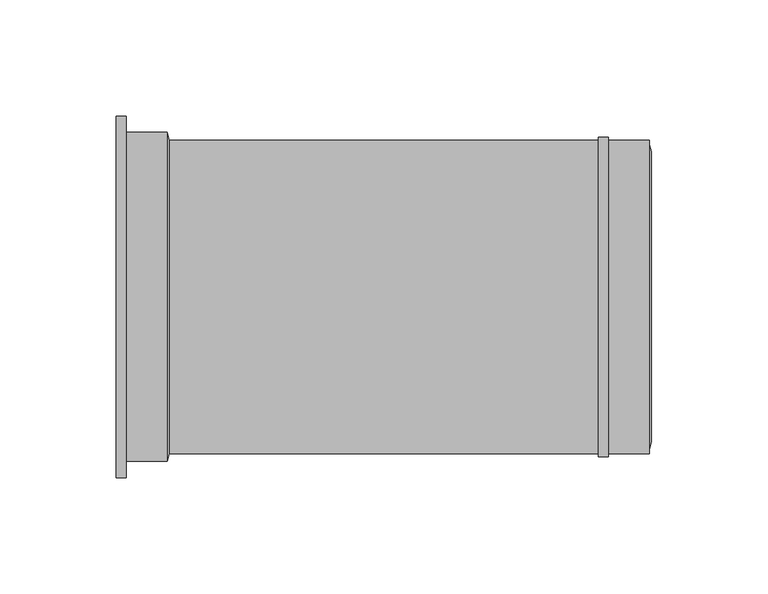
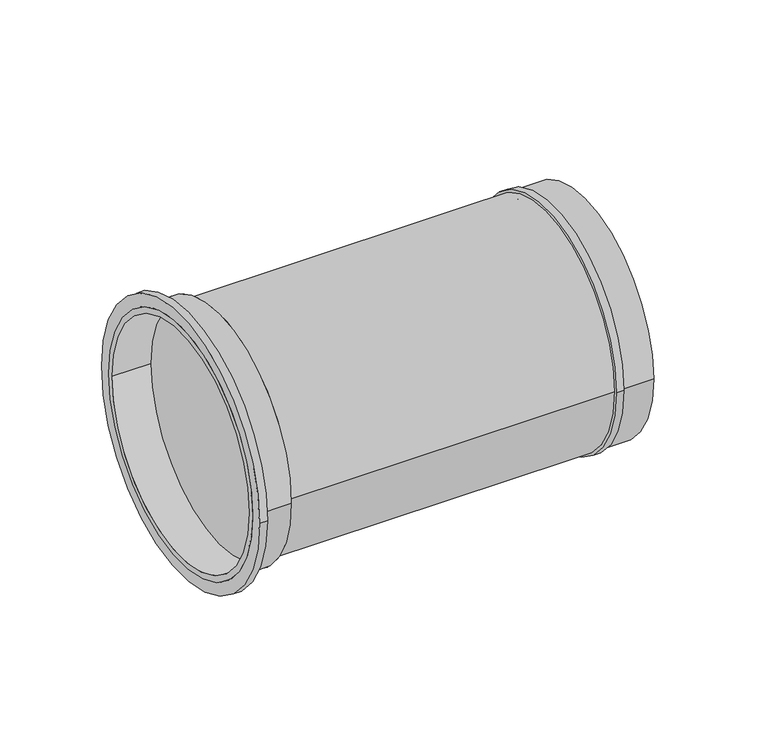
"""IFC4 building model written with IfcOpenShell, lengths in millimetres: pipe fitting geometry, Superdrain SK Connection to HT : Superdrain SK Connection to HT."""

from ifc_helpers import new_model, si_unit, point, frame, origin, origin_2d, place, context, project, spatial, polyline, circle_curve, trimmed, segment, composite_curve, outline, extrude, source, transform, mapped, element, save
from ifc_brep_helpers import plane_surface, revolved_surface, advanced_brep


def pipe_fitting_3edb0472(model_context):
    return source(origin(), model_context, "Body", "SolidModel", [
        extrude(outline(composite_curve([segment(trimmed(circle_curve(origin_2d(), 65.625), [point((-65.625, 0.0))], [point((65.625, 0.0))], False, "CARTESIAN"), True, "CONTINUOUS"), segment(trimmed(circle_curve(origin_2d(), 65.625), [point((65.625, 0.0))], [point((-65.625, 0.0))], False, "CARTESIAN"), True, "CONTINUOUS")], self_intersect=False), holes=[composite_curve([segment(trimmed(circle_curve(origin_2d(), 62.5), [point((-62.5, 0.0))], [point((62.5, 0.0))], True, "CARTESIAN"), True, "CONTINUOUS"), segment(trimmed(circle_curve(origin_2d(), 62.5), [point((62.5, 0.0))], [point((-62.5, 0.0))], True, "CARTESIAN"), True, "CONTINUOUS")], self_intersect=False)]), frame((78.0, 0.0, 0.0), z_axis=(1.0, 0.0, 0.0), x_axis=(0.0, 1.0, 0.0)), (0.0, 0.0, 1.0), 22.0),
        extrude(outline(composite_curve([segment(trimmed(circle_curve(origin_2d(), 68.90625), [point((-68.90625, 0.0))], [point((68.90625, 0.0))], False, "CARTESIAN"), True, "CONTINUOUS"), segment(trimmed(circle_curve(origin_2d(), 68.90625), [point((68.90625, 0.0))], [point((-68.90625, 0.0))], False, "CARTESIAN"), True, "CONTINUOUS")], self_intersect=False), holes=[composite_curve([segment(trimmed(circle_curve(origin_2d(), 62.5), [point((-62.5, 0.0))], [point((62.5, 0.0))], True, "CARTESIAN"), True, "CONTINUOUS"), segment(trimmed(circle_curve(origin_2d(), 62.5), [point((62.5, 0.0))], [point((-62.5, 0.0))], True, "CARTESIAN"), True, "CONTINUOUS")], self_intersect=False)]), frame((78.0, 0.0, 0.0), z_axis=(1.0, 0.0, 0.0), x_axis=(0.0, 1.0, 0.0)), (0.0, 0.0, 1.0), 4.4),
        advanced_brep(
        [(101.0, -62.5, 0.0), (101.0, 62.5, 0.0), (100.0, -65.625, 0.0), (100.0, 65.625, 0.0)],
        [
            (0, 1, circle_curve(frame((101.0, 0.0, 0.0), z_axis=(1.0, 0.0, 0.0), x_axis=(0.0, -1.0, 0.0)), 62.5)),
            (1, 0, circle_curve(frame((101.0, 0.0, 0.0), z_axis=(1.0, 0.0, 0.0), x_axis=(0.0, 1.0, 0.0)), 62.5)),
            (2, 3, circle_curve(frame((100.0, 0.0, 0.0), z_axis=(-1.0, 0.0, 0.0), x_axis=(0.0, 1.0, 0.0)), 65.625)),
            (3, 2, circle_curve(frame((100.0, 0.0, 0.0), z_axis=(-1.0, 0.0, 0.0), x_axis=(0.0, -1.0, 0.0)), 65.625)),
            (3, 1),
            (0, 2),
        ],
        [
            plane_surface(frame((101.0, 0.0, 0.0), z_axis=(1.0, 0.0, 0.0), x_axis=(0.0, 0.0, -1.0))),
            plane_surface(frame((100.0, 0.0, 0.0), z_axis=(-1.0, 0.0, 0.0), x_axis=(0.0, 0.0, -1.0))),
            revolved_surface(polyline([(101.0, -62.5, 0.0), (100.0, -65.625, 0.0)]), (121.0, 0.0, 0.0), (-1.0, 0.0, 0.0)),
            revolved_surface(polyline([(101.0, 62.5, 0.0), (100.0, 65.625, 0.0)]), (121.0, 0.0, 0.0), (-1.0, 0.0, 0.0)),
        ],
        [
            (0, [[1, 2]]),
            (1, [[3, 4]]),
            (2, [[-4, 5, -1, 6]]),
            (3, [[-3, -6, -2, -5]]),
        ],
    ),
        extrude(outline(composite_curve([segment(trimmed(circle_curve(origin_2d(), 70.875), [point((-70.875, 0.0))], [point((70.875, 0.0))], False, "CARTESIAN"), True, "CONTINUOUS"), segment(trimmed(circle_curve(origin_2d(), 70.875), [point((70.875, 0.0))], [point((-70.875, 0.0))], False, "CARTESIAN"), True, "CONTINUOUS")], self_intersect=False), holes=[composite_curve([segment(trimmed(circle_curve(origin_2d(), 67.5), [point((-67.5, 0.0))], [point((67.5, 0.0))], True, "CARTESIAN"), True, "CONTINUOUS"), segment(trimmed(circle_curve(origin_2d(), 67.5), [point((67.5, 0.0))], [point((-67.5, 0.0))], True, "CARTESIAN"), True, "CONTINUOUS")], self_intersect=False)]), frame((-130.0, 0.0, 0.0), z_axis=(1.0, 0.0, 0.0), x_axis=(0.0, 1.0, 0.0)), (0.0, 0.0, 1.0), 22.0),
        extrude(outline(composite_curve([segment(trimmed(circle_curve(origin_2d(), 77.9625), [point((-77.9625, 0.0))], [point((77.9625, 0.0))], False, "CARTESIAN"), True, "CONTINUOUS"), segment(trimmed(circle_curve(origin_2d(), 77.9625), [point((77.9625, 0.0))], [point((-77.9625, 0.0))], False, "CARTESIAN"), True, "CONTINUOUS")], self_intersect=False), holes=[composite_curve([segment(trimmed(circle_curve(origin_2d(), 67.5), [point((-67.5, 0.0))], [point((67.5, 0.0))], True, "CARTESIAN"), True, "CONTINUOUS"), segment(trimmed(circle_curve(origin_2d(), 67.5), [point((67.5, 0.0))], [point((-67.5, 0.0))], True, "CARTESIAN"), True, "CONTINUOUS")], self_intersect=False)]), frame((-130.0, 0.0, 0.0), z_axis=(1.0, 0.0, 0.0), x_axis=(0.0, 1.0, 0.0)), (0.0, 0.0, 1.0), 4.4),
        advanced_brep(
        [(-107.0, -67.5, 0.0), (-107.0, 67.5, 0.0), (-108.0, -70.875, 0.0), (-108.0, 70.875, 0.0)],
        [
            (0, 1, circle_curve(frame((-107.0, 0.0, 0.0), z_axis=(1.0, 0.0, 0.0), x_axis=(0.0, -1.0, 0.0)), 67.5)),
            (1, 0, circle_curve(frame((-107.0, 0.0, 0.0), z_axis=(1.0, 0.0, 0.0), x_axis=(0.0, 1.0, 0.0)), 67.5)),
            (2, 3, circle_curve(frame((-108.0, 0.0, 0.0), z_axis=(-1.0, 0.0, 0.0), x_axis=(0.0, 1.0, 0.0)), 70.875)),
            (3, 2, circle_curve(frame((-108.0, 0.0, 0.0), z_axis=(-1.0, 0.0, 0.0), x_axis=(0.0, -1.0, 0.0)), 70.875)),
            (3, 1),
            (0, 2),
        ],
        [
            plane_surface(frame((-107.0, 0.0, 0.0), z_axis=(1.0, 0.0, 0.0), x_axis=(0.0, 0.0, -1.0))),
            plane_surface(frame((-108.0, 0.0, 0.0), z_axis=(-1.0, 0.0, 0.0), x_axis=(0.0, 0.0, -1.0))),
            revolved_surface(polyline([(-107.0, -67.5, 0.0), (-108.0, -70.875, 0.0)]), (-87.0, 0.0, 0.0), (-1.0, 0.0, 0.0)),
            revolved_surface(polyline([(-107.0, 67.5, 0.0), (-108.0, 70.875, 0.0)]), (-87.0, 0.0, 0.0), (-1.0, 0.0, 0.0)),
        ],
        [
            (0, [[1, 2]]),
            (1, [[3, 4]]),
            (2, [[-4, 5, -1, 6]]),
            (3, [[-3, -6, -2, -5]]),
        ],
    ),
        extrude(outline(composite_curve([segment(trimmed(circle_curve(origin_2d(), 67.5), [point((-67.5, 0.0))], [point((67.5, 0.0))], False, "CARTESIAN"), True, "CONTINUOUS"), segment(trimmed(circle_curve(origin_2d(), 67.5), [point((67.5, 0.0))], [point((-67.5, 0.0))], False, "CARTESIAN"), True, "CONTINUOUS")], self_intersect=False)), frame((-108.0, 0.0, 0.0), z_axis=(1.0, 0.0, 0.0), x_axis=(0.0, 1.0, 0.0)), (0.0, 0.0, 1.0), 208.0),
    ])


if __name__ == "__main__":
    model = new_model("IFC4")
    model_context = context("Model", 3, world=origin())
    ifc_project = project(units=[si_unit("LENGTHUNIT", "METRE", prefix="MILLI")], contexts=[model_context])
    site = spatial("IfcSite", under=ifc_project)
    building = spatial("IfcBuilding", under=site)
    placement = place(None, origin())
    pipe_fitting_shape = pipe_fitting_3edb0472(model_context)
    element("IfcPipeFitting", 1, ObjectType="Superdrain SK Connection to HT : Superdrain SK Connection to HT", at=placement, inside=building, context=model_context, shape_type="MappedRepresentation", body=[
        mapped(pipe_fitting_shape, transform((0.0, 0.0, 0.0), x_axis=(1.0, 0.0, 0.0), y_axis=(0.0, 1.0, 0.0), z_axis=(0.0, 0.0, 1.0))),
    ])
    save(model, "model.ifc")
